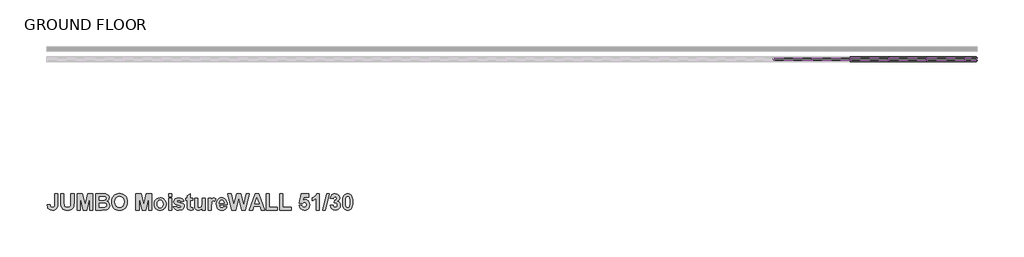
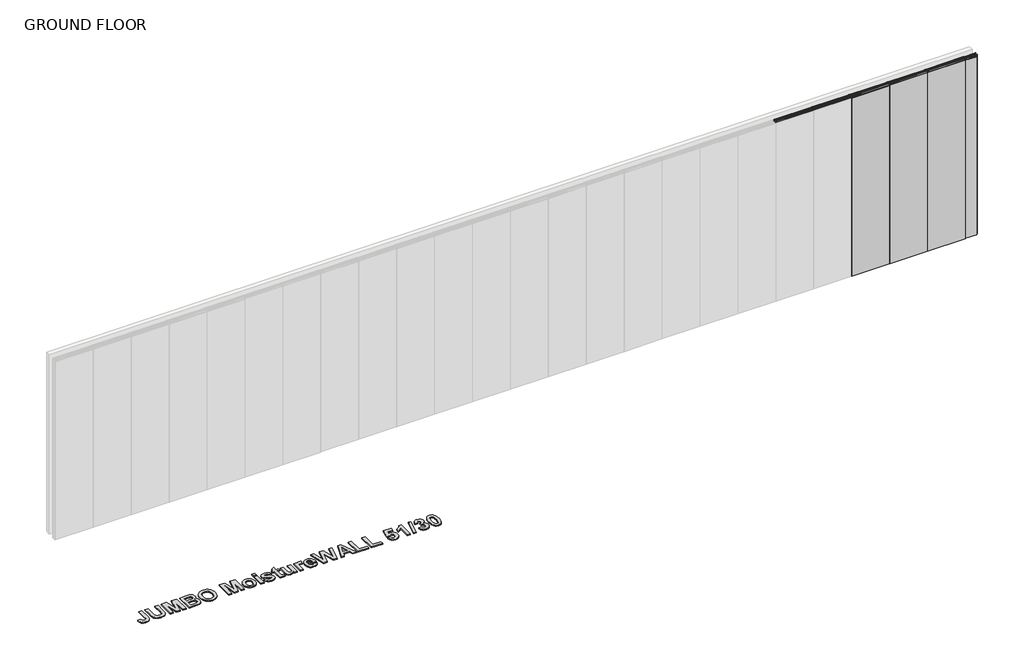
# One storey, part 2 of 2: 19 members, 4 plates, 1 proxy.
"""IFC4 building model written with IfcOpenShell, lengths in millimetres."""

from ifc_helpers import new_model, si_unit, origin, origin_with_axes, place, context, project, spatial, polyline, outline, extrude, transform, mapped, element, save
from components import rectangular_mullion_stud_mullion_51mm_94d3096a, rectangular_mullion_stud_mullion_51mm_2ef0a27f, rectangular_mullion_stud_mullion_51mm_d47c2d60, rectangular_mullion_stud_mullion_51mm_92998b61, rectangular_mullion_stud_mullion_51mm_77066ee0, rectangular_mullion_stud_mullion_51mm_8a3d9f1b, plate_2_layer_drywall_panels_2_layer_12mm_thick_drywall_a247d09f, plate_2_layer_drywall_panels_2_layer_12mm_thick_drywall_8d42099b

model = new_model("IFC4")

# Units and contexts
model_context = context("Model", 3, world=origin())
ifc_project = project(units=[si_unit("LENGTHUNIT", "METRE", prefix="MILLI")], contexts=[model_context])

# Site, building, storey
site = spatial("IfcSite", under=ifc_project)
building = spatial("IfcBuilding", under=site)
storey = spatial("IfcBuildingStorey", under=building, Name="GROUND FLOOR", Elevation=0.0)

# Proxy
placement = place(None, origin())
element("IfcBuildingElementProxy", 1, Name="600mm Arial", ObjectType="600mm Arial", at=placement, inside=storey, context=model_context, shape_type="SweptSolid", body=[
    extrude(outline(polyline([(61762.9500241, -9369.743976), (61811.5338051, -9369.743976), (61811.5338051, -9530.994051), (61810.1104521, -9558.9866592), (61805.8403932, -9579.7043522), (61795.149431, -9599.7261838), (61778.2589759, -9615.3830664), (61755.0741377, -9625.4888724), (61725.5000263, -9628.8574744), (61691.5293357, -9623.4566406), (61677.8651473, -9616.7055985), (61666.4150635, -9607.2541395), (61657.3530497, -9595.1892463), (61650.8530712, -9580.5979016), (61645.5392201, -9543.8358577), (61694.1230011, -9539.7872093), (61696.3529207, -9558.417318), (61701.1448757, -9570.6581534), (61712.5633294, -9580.9062947), (61728.726293, -9584.3223418), (61744.7073837, -9581.8710117), (61755.200658, -9574.5170215), (61761.0126826, -9559.4611102), (61762.9500241, -9533.9040171), (61762.9500241, -9369.743976)])), origin_with_axes(), (0.0, 0.0, 1.0), 15.0),
    extrude(outline(polyline([(61860.117586, -9369.743976), (61908.701367, -9369.743976), (61908.701367, -9507.3347619), (61910.7889513, -9549.8455702), (61916.8777389, -9563.8814119), (61927.9324469, -9574.8649522), (61943.9530752, -9581.9579944), (61964.9396238, -9584.3223418), (61985.9024499, -9582.0924222), (62000.9662687, -9575.4026633), (62010.6687913, -9565.4629151), (62015.547729, -9553.4830277), (62018.0148741, -9510.307988), (62018.0148741, -9369.743976), (62066.598655, -9369.743976), (62066.598655, -9503.539154), (62062.3602262, -9568.3807887), (62056.3346987, -9585.8326775), (62046.7349738, -9600.3587851), (62033.4266236, -9612.085632), (62016.2752205, -9621.1397383), (61994.2844173, -9626.9280404), (61966.457867, -9628.8574744), (61933.8630842, -9626.754075), (61910.2196101, -9620.4438769), (61893.0602995, -9610.7650768), (61879.9180071, -9598.5558714), (61870.682028, -9584.7493477), (61865.2416567, -9570.2785926), (61861.3986037, -9543.1716263), (61860.117586, -9505.6267383), (61860.117586, -9369.743976)])), origin_with_axes(), (0.0, 0.0, 1.0), 15.0),
    extrude(outline(polyline([(62115.182436, -9624.808826), (62115.182436, -9369.743976), (62198.432769, -9369.743976), (62238.6662126, -9543.7093374), (62278.8996562, -9369.743976), (62362.1499892, -9369.743976), (62362.1499892, -9624.808826), (62313.5662082, -9624.808826), (62311.541884, -9424.0211687), (62267.1332717, -9624.808826), (62210.2624136, -9624.808826), (62165.7905412, -9424.0211687), (62163.7662169, -9624.808826), (62115.182436, -9624.808826)])), origin_with_axes(), (0.0, 0.0, 1.0), 15.0),
    extrude(outline(polyline([(62410.7337701, -9369.743976), (62515.4292877, -9369.743976), (62561.7673339, -9372.2743812), (62589.0957107, -9382.8704532), (62600.1425112, -9392.2645828), (62609.1808025, -9404.3156378), (62615.20633, -9418.5096298), (62617.2148391, -9434.3325702), (62614.8188617, -9451.570956), (62607.6309292, -9467.3543588), (62596.3310883, -9480.5282812), (62581.5993851, -9489.9382257), (62600.2294939, -9499.0793147), (62613.9885724, -9512.9649136), (62622.4812451, -9530.6619353), (62625.312136, -9551.2372931), (62623.2799042, -9568.3254361), (62617.1832091, -9584.9233131), (62607.5676691, -9599.6312936), (62594.9789029, -9611.0497474), (62579.2666678, -9618.9493563), (62560.2807208, -9623.1008024), (62497.9062312, -9624.808826), (62410.7337701, -9624.808826), (62410.7337701, -9369.743976)]), holes=[polyline([(62459.3175511, -9414.2791085), (62459.3175511, -9470.9601863), (62496.3879881, -9470.9601863), (62537.5070735, -9470.1378046), (62550.4516779, -9467.1803934), (62560.3123509, -9461.3446463), (62566.5513814, -9452.9152338), (62568.6310582, -9442.1768265), (62566.836052, -9431.9049626), (62561.4510333, -9423.7364982), (62552.5392623, -9418.0193638), (62540.163999, -9415.1014902), (62491.8332586, -9414.2791085), (62459.3175511, -9414.2791085)]), polyline([(62459.3175511, -9515.4953188), (62459.3175511, -9580.2736934), (62510.6847778, -9580.2736934), (62548.7673769, -9578.7554503), (62560.0118653, -9575.3631257), (62568.9473589, -9569.1082802), (62574.783106, -9560.117434), (62576.728355, -9548.5171074), (62575.2259269, -9538.4587465), (62570.7186425, -9530.045149), (62553.3853665, -9518.974626), (62504.1689843, -9515.4953188), (62459.3175511, -9515.4953188)])]), origin_with_axes(), (0.0, 0.0, 1.0), 15.0),
    extrude(outline(polyline([(62657.7013233, -9498.8579042), (62660.5638442, -9463.0842999), (62669.1514071, -9433.5734486), (62679.2493055, -9415.1410278), (62692.4627655, -9398.6854861), (62707.9377752, -9385.2189856), (62724.8203227, -9375.7536884), (62750.0294851, -9368.2099178), (62778.844475, -9365.6953275), (62805.1369671, -9367.8758252), (62828.6618285, -9374.4173182), (62849.4190591, -9385.3198065), (62867.408659, -9400.58329), (62881.9387205, -9419.7293642), (62892.3173358, -9442.2796242), (62898.544505, -9468.23407), (62900.620228, -9497.5927016), (62898.56032, -9526.7516685), (62892.3805959, -9552.5499408), (62882.0810558, -9574.9875187), (62867.6616995, -9594.0644021), (62849.7907124, -9609.2863712), (62829.1362795, -9620.1592063), (62805.6984008, -9626.6829073), (62779.4770763, -9628.8574744), (62752.9789887, -9626.6927917), (62729.3434221, -9620.1987439), (62708.5703765, -9609.3753308), (62690.6598518, -9594.2225524), (62676.2404955, -9575.2741661), (62665.9409554, -9553.0639294), (62659.7612313, -9527.5918421), (62657.7013233, -9498.8579042)]), holes=[polyline([(62706.2851042, -9497.0866206), (62711.4487125, -9534.837104), (62717.9032227, -9549.8099864), (62726.9395371, -9562.1812958), (62750.3853234, -9578.7870803), (62779.4138162, -9584.3223418), (62808.3790489, -9578.8266179), (62831.6350547, -9562.3394461), (62840.5606639, -9549.9740673), (62846.936099, -9534.8608266), (62852.0364471, -9496.3907591), (62847.0705268, -9458.4979404), (62840.8631264, -9443.6792546), (62832.1727658, -9431.6123845), (62809.0511878, -9415.5759412), (62779.4138162, -9410.2304601), (62749.7131845, -9415.6392013), (62726.401826, -9431.865425), (62717.6007602, -9444.0548616), (62711.3142847, -9458.9882064), (62706.2851042, -9497.0866206)])]), origin_with_axes(), (0.0, 0.0, 1.0), 15.0),
    extrude(outline(polyline([(63038.2742741, -9624.808826), (63038.2742741, -9369.743976), (63121.524607, -9369.743976), (63161.7580506, -9543.7093374), (63201.9914942, -9369.743976), (63285.2418272, -9369.743976), (63285.2418272, -9624.808826), (63236.6580463, -9624.808826), (63234.6337221, -9424.0211687), (63190.2251098, -9624.808826), (63133.3542516, -9624.808826), (63088.8823792, -9424.0211687), (63086.858055, -9624.808826), (63038.2742741, -9624.808826)])), origin_with_axes(), (0.0, 0.0, 1.0), 15.0),
    extrude(outline(polyline([(63321.6796629, -9529.0329869), (63324.6766117, -9504.9387844), (63333.6674578, -9481.6195184), (63348.1461204, -9461.3999989), (63367.6065184, -9446.6050357), (63390.8388016, -9437.5430218), (63416.6331202, -9434.5223506), (63436.6252986, -9436.2343279), (63454.7236269, -9441.3702598), (63470.9281049, -9449.9301463), (63485.2387328, -9461.9139875), (63496.9319727, -9476.5152166), (63505.2842869, -9492.9272669), (63510.2956755, -9511.1501385), (63511.9661383, -9531.1838314), (63510.2778836, -9551.3776515), (63505.2131193, -9569.7646041), (63496.7718455, -9586.3446892), (63484.9540622, -9601.1179067), (63470.5781973, -9613.2539676), (63454.4626788, -9621.9225825), (63436.6075067, -9627.1237514), (63417.012681, -9628.8574744), (63392.238432, -9625.9712309), (63368.6503105, -9617.3125004), (63348.4070685, -9603.0710633), (63333.6674578, -9583.4367), (63324.6766117, -9558.6703585), (63321.6796629, -9529.0329869)]), holes=[polyline([(63370.2634439, -9531.6899125), (63373.6241384, -9557.6661039), (63383.7062218, -9576.7627561), (63398.7225955, -9588.505418), (63416.8861608, -9592.4196387), (63435.033911, -9588.505418), (63450.0028396, -9576.7627561), (63460.0374779, -9557.5712137), (63463.3823574, -9531.3103517), (63460.0374779, -9505.6188308), (63450.0028396, -9486.6170688), (63435.033911, -9474.8744069), (63416.8861608, -9470.9601863), (63398.7225955, -9474.8744069), (63383.7062218, -9486.6170688), (63373.6241384, -9505.713721), (63370.2634439, -9531.6899125)])]), origin_with_axes(), (0.0, 0.0, 1.0), 15.0),
    extrude(outline(polyline([(63548.403974, -9414.2791085), (63548.403974, -9369.743976), (63596.987755, -9369.743976), (63596.987755, -9414.2791085), (63548.403974, -9414.2791085)])), origin_with_axes(), (0.0, 0.0, 1.0), 15.0),
    extrude(outline(polyline([(63548.403974, -9624.808826), (63548.403974, -9438.570999), (63596.987755, -9438.570999), (63596.987755, -9624.808826), (63548.403974, -9624.808826)])), origin_with_axes(), (0.0, 0.0, 1.0), 15.0),
    extrude(outline(polyline([(63625.3282939, -9572.1763966), (63673.9120748, -9564.0790998), (63678.5379719, -9576.3199352), (63686.3426906, -9585.2079837), (63697.5950865, -9590.6167249), (63712.5640151, -9592.4196387), (63728.8060539, -9590.6958001), (63740.4617331, -9585.5242843), (63745.206243, -9579.8941326), (63746.7877462, -9572.6192175), (63743.4349593, -9563.5097586), (63727.5566663, -9557.1204853), (63680.6334638, -9544.6898695), (63654.744255, -9533.3346759), (63638.7552568, -9515.3529835), (63633.4255907, -9491.519729), (63637.9961352, -9469.3312379), (63651.7077687, -9450.9699847), (63675.0349422, -9438.6342591), (63708.4521066, -9434.5223506), (63740.3193978, -9437.8435075), (63762.7925595, -9447.8069782), (63777.8010257, -9464.2862424), (63787.2742304, -9487.1547799), (63738.6904494, -9495.2520767), (63735.116252, -9484.8616002), (63729.32795, -9477.2229393), (63720.9776126, -9472.5258745), (63709.7173092, -9470.9601863), (63695.8791555, -9472.288649), (63686.6273612, -9476.2740373), (63682.0093716, -9486.1426178), (63686.6273612, -9494.9357761), (63729.6126206, -9508.5367044), (63760.8394029, -9518.3578398), (63780.9482172, -9530.2349294), (63791.7656997, -9545.907627), (63795.3715272, -9566.7360253), (63790.1446588, -9590.434852), (63774.4640538, -9610.5436663), (63762.7549988, -9618.5559573), (63748.5353074, -9624.2790223), (63712.5640151, -9628.8574744), (63679.2496484, -9625.0460514), (63653.7004628, -9613.6117827), (63635.7741231, -9595.6300903), (63625.3282939, -9572.1763966)])), origin_with_axes(), (0.0, 0.0, 1.0), 15.0),
    extrude(outline(polyline([(63928.9769248, -9438.570999), (63928.9769248, -9475.0088347), (63892.5390891, -9475.0088347), (63892.5390891, -9554.9063807), (63893.6461414, -9583.1520294), (63898.6753218, -9589.7943432), (63908.2276017, -9592.4196387), (63931.001249, -9587.7383889), (63933.0255732, -9622.2784207), (63914.2847593, -9627.2127109), (63893.2349505, -9628.8574744), (63868.6900195, -9624.3027449), (63852.6535762, -9612.5363605), (63845.5368114, -9592.9889798), (63843.9553081, -9557.6265664), (63843.9553081, -9475.0088347), (63819.6634177, -9475.0088347), (63819.6634177, -9438.570999), (63843.9553081, -9438.570999), (63843.9553081, -9402.1331633), (63892.5390891, -9373.7926244), (63892.5390891, -9438.570999), (63928.9769248, -9438.570999)])), origin_with_axes(), (0.0, 0.0, 1.0), 15.0),
    extrude(outline(polyline([(64074.7282677, -9624.808826), (64074.7282677, -9597.4804492), (64063.5391319, -9610.5357588), (64049.3293249, -9620.4755069), (64033.1584538, -9626.7619825), (64016.0861258, -9628.8574744), (63999.2114857, -9626.8015201), (63984.1397594, -9620.6336573), (63971.9305541, -9610.7413542), (63963.6434768, -9597.5120792), (63958.898967, -9579.7597048), (63957.3174637, -9556.2981036), (63957.3174637, -9438.570999), (64005.9012446, -9438.570999), (64005.9012446, -9524.6680379), (64008.5265401, -9573.0936685), (64018.1420801, -9587.2006778), (64035.8865469, -9592.4196387), (64047.5185036, -9590.679985), (64057.8694426, -9585.4610242), (64066.0458146, -9577.6563055), (64071.1540702, -9568.1593782), (64074.7282677, -9517.5829032), (64074.7282677, -9438.570999), (64123.3120486, -9438.570999), (64123.3120486, -9624.808826), (64074.7282677, -9624.808826)])), origin_with_axes(), (0.0, 0.0, 1.0), 15.0),
    extrude(outline(polyline([(64220.4796105, -9624.808826), (64171.8958296, -9624.808826), (64171.8958296, -9438.570999), (64220.4796105, -9438.570999), (64220.4796105, -9464.5076529), (64239.9004709, -9440.3106526), (64259.5111116, -9434.5223506), (64274.6777281, -9437.0843859), (64289.3066335, -9444.7704919), (64275.1363641, -9491.0136479), (64263.4332398, -9485.0830106), (64252.6157573, -9483.1061315), (64235.5038917, -9488.641393), (64229.2569537, -9496.3986666), (64224.4966289, -9508.5999645), (64220.4796105, -9569.0766501), (64220.4796105, -9624.808826)])), origin_with_axes(), (0.0, 0.0, 1.0), 15.0),
    extrude(outline(polyline([(64414.8147343, -9568.1277482), (64463.3985153, -9576.225045), (64451.5688707, -9598.8958946), (64434.4253751, -9615.4146964), (64412.1419938, -9625.4967799), (64384.8926921, -9628.8574744), (64362.8900277, -9626.8766415), (64343.9475721, -9620.9341429), (64328.0653253, -9611.0299786), (64315.2432874, -9597.1641485), (64301.8637696, -9568.4598639), (64297.4039303, -9533.0816354), (64298.8826359, -9511.241075), (64303.3187526, -9491.8992898), (64310.7122805, -9475.0562798), (64321.0632195, -9460.712045), (64333.6757082, -9449.2540537), (64347.8538852, -9441.0697742), (64363.5977504, -9436.1592065), (64380.9073039, -9434.5223506), (64400.1423376, -9436.2026978), (64417.2344343, -9441.2437395), (64432.1835941, -9449.6454757), (64444.989817, -9461.4079064), (64455.194467, -9476.6417368), (64462.3389081, -9495.4576722), (64466.4231403, -9517.8557125), (64467.4471637, -9543.8358577), (64345.9877113, -9543.8358577), (64349.1032728, -9564.3005102), (64357.4377951, -9579.6410921), (64369.7260756, -9589.225002), (64384.7029117, -9592.4196387), (64394.9036079, -9590.9804707), (64403.3646505, -9586.6629667), (64410.0227794, -9579.1508261), (64414.8147343, -9568.1277482)]), holes=[polyline([(64418.8633827, -9515.4953188), (64415.9059716, -9496.2879614), (64408.0459002, -9482.3153799), (64396.6274465, -9473.7989847), (64382.9948882, -9470.9601863), (64368.6032083, -9473.9492275), (64356.931714, -9482.9163511), (64349.2772381, -9497.0708055), (64346.810093, -9515.4953188), (64418.8633827, -9515.4953188)])]), origin_with_axes(), (0.0, 0.0, 1.0), 15.0),
    extrude(outline(polyline([(65054.5011835, -9624.808826), (65003.4502574, -9624.808826), (64983.4600559, -9568.1277482), (64887.1148757, -9568.1277482), (64867.3777147, -9624.808826), (64815.6309272, -9624.808826), (64908.7498406, -9369.743976), (64960.4966282, -9369.743976), (65054.5011835, -9624.808826)]), holes=[polyline([(64967.8980635, -9523.5926156), (64935.0660553, -9430.4737021), (64902.676868, -9523.5926156), (64967.8980635, -9523.5926156)])]), origin_with_axes(), (0.0, 0.0, 1.0), 15.0),
    extrude(outline(polyline([(64543.8021423, -9624.808826), (64479.5931089, -9369.743976), (64529.4420925, -9369.743976), (64570.6876982, -9544.9745401), (64615.0330503, -9369.743976), (64680.3807661, -9369.743976), (64724.5363379, -9547.8845061), (64765.7819436, -9369.743976), (64815.6309272, -9369.743976), (64752.3707957, -9624.808826), (64694.8673362, -9624.808826), (64647.612018, -9434.1427898), (64599.4077979, -9624.808826), (64543.8021423, -9624.808826)])), origin_with_axes(), (0.0, 0.0, 1.0), 15.0),
    extrude(outline(polyline([(65078.793074, -9624.808826), (65078.793074, -9369.743976), (65127.3768549, -9369.743976), (65127.3768549, -9580.2736934), (65256.9336041, -9580.2736934), (65256.9336041, -9624.808826), (65078.793074, -9624.808826)])), origin_with_axes(), (0.0, 0.0, 1.0), 15.0),
    extrude(outline(polyline([(65293.3714398, -9624.808826), (65293.3714398, -9369.743976), (65341.9552208, -9369.743976), (65341.9552208, -9580.2736934), (65471.51197, -9580.2736934), (65471.51197, -9624.808826), (65293.3714398, -9624.808826)])), origin_with_axes(), (0.0, 0.0, 1.0), 15.0),
    extrude(outline(polyline([(65597.0200708, -9553.0085768), (65641.5552033, -9547.8845061), (65645.6987419, -9562.9562324), (65653.9541891, -9574.5170215), (65665.0563421, -9581.8710117), (65677.7399985, -9584.3223418), (65691.9339905, -9581.7207689), (65703.7715426, -9573.9160502), (65711.7660417, -9560.8765556), (65714.4308747, -9542.5706551), (65711.9558221, -9525.4113444), (65704.5306642, -9513.1546939), (65693.135933, -9505.8007037), (65678.7521606, -9503.3493736), (65659.9322715, -9508.4101841), (65643.1999667, -9523.5926156), (65601.0687192, -9517.3298626), (65629.4092581, -9373.7926244), (65750.8687104, -9373.7926244), (65750.8687104, -9422.3764053), (65668.6937997, -9422.3764053), (65658.8884793, -9468.7460817), (65674.3713965, -9461.2972012), (65690.2022444, -9458.814241), (65718.3213728, -9464.5630055), (65741.8225116, -9481.8092988), (65757.7166197, -9508.2283112), (65763.0146557, -9541.4952328), (65758.6022615, -9570.4209279), (65745.365079, -9596.0887263), (65732.1476653, -9610.4250536), (65716.5975342, -9620.6652873), (65698.7146858, -9626.8094276), (65678.4991201, -9628.8574744), (65647.4937481, -9623.7175887), (65622.7985743, -9608.2979316), (65605.5839111, -9584.1958216), (65597.0200708, -9553.0085768)])), origin_with_axes(), (0.0, 0.0, 1.0), 15.0),
    extrude(outline(polyline([(65912.8146469, -9624.808826), (65864.230866, -9624.808826), (65864.230866, -9442.4931271), (65836.1749977, -9466.3738267), (65803.5011398, -9483.1061315), (65803.5011398, -9434.5223506), (65822.9694453, -9425.4366142), (65844.0508841, -9410.7049111), (65862.5070274, -9391.6873341), (65874.0994465, -9369.743976), (65912.8146469, -9369.743976), (65912.8146469, -9624.808826)])), origin_with_axes(), (0.0, 0.0, 1.0), 15.0),
    extrude(outline(polyline([(65968.6100829, -9624.808826), (66029.3398091, -9369.743976), (66066.6632866, -9369.743976), (66005.9335604, -9624.808826), (65968.6100829, -9624.808826)])), origin_with_axes(), (0.0, 0.0, 1.0), 15.0),
    extrude(outline(polyline([(66082.8578803, -9553.5146578), (66131.4416612, -9547.8845061), (66135.189824, -9563.5097586), (66142.385664, -9574.9598424), (66152.2384294, -9581.981717), (66163.9573688, -9584.3223418), (66176.5303199, -9581.6416938), (66186.9207965, -9573.5997495), (66193.895226, -9561.0188909), (66196.2200358, -9544.7214995), (66194.0929139, -9529.3018425), (66187.7115481, -9517.4563829), (66178.262066, -9509.9126122), (66166.930595, -9507.398022), (66147.6362549, -9511.0038495), (66151.8746837, -9470.9601863), (66165.7049299, -9469.2205327), (66175.8186434, -9462.9894097), (66182.0102288, -9453.1208292), (66184.0740906, -9440.4688029), (66182.5321249, -9429.7224881), (66177.9062278, -9421.3958733), (66170.7182953, -9416.0582997), (66161.4902237, -9414.2791085), (66152.1040017, -9416.3429703), (66144.1885777, -9422.5345557), (66138.4239982, -9432.6957143), (66135.4903096, -9446.6682958), (66086.9065287, -9439.3933807), (66092.4655127, -9417.655618), (66100.2860465, -9400.7730704), (66111.0086388, -9387.8600961), (66125.2737984, -9378.0310532), (66142.2670512, -9371.8157453), (66161.173923, -9369.743976), (66191.8234567, -9375.4848329), (66204.6099108, -9382.6609041), (66215.7041563, -9392.7074037), (66228.4194427, -9412.7292353), (66232.6578715, -9435.218212), (66230.3844606, -9451.1637189), (66223.5642276, -9465.4091097), (66212.1971728, -9477.9543846), (66196.283296, -9488.7995433), (66216.1469772, -9496.3512215), (66231.5824493, -9509.6437567), (66241.4984749, -9527.5068363), (66244.8038168, -9548.770148), (66238.9443471, -9579.5382944), (66221.3659381, -9605.4195957), (66208.9293916, -9615.6736676), (66195.0576309, -9622.9980047), (66163.0084668, -9628.8574744), (66132.7464014, -9623.646421), (66108.1303028, -9608.0132611), (66090.9156395, -9583.9665036), (66082.8578803, -9553.5146578)])), origin_with_axes(), (0.0, 0.0, 1.0), 15.0),
    extrude(outline(polyline([(66358.1659723, -9369.743976), (66375.2976067, -9371.3887394), (66390.4444544, -9376.3230296), (66403.6065155, -9384.5468467), (66414.78379, -9396.0601906), (66425.4391684, -9414.1881721), (66433.0501529, -9437.4481316), (66437.6167437, -9465.8400694), (66439.1389406, -9499.3639853), (66437.6088361, -9532.8562711), (66433.0185229, -9561.2798389), (66425.3680007, -9584.6346887), (66414.6572697, -9602.9208205), (66403.5353478, -9614.2681065), (66390.4128243, -9622.3733109), (66375.2896992, -9627.2364335), (66358.1659723, -9628.8574744), (66340.8583957, -9627.0782832), (66325.3102416, -9621.7407096), (66311.5215098, -9612.8447536), (66299.4922004, -9600.3904152), (66289.736302, -9583.3694861), (66282.7678032, -9560.7737579), (66278.5867038, -9532.6032306), (66277.1930041, -9498.8579042), (66278.7231085, -9465.5316762), (66283.3134218, -9437.2267212), (66290.9639439, -9413.9430391), (66301.6746749, -9395.6806299), (66312.7965968, -9384.3333438), (66325.9191203, -9376.2281394), (66341.0422455, -9371.3650168), (66358.1659723, -9369.743976)]), holes=[polyline([(66358.1659723, -9414.2791085), (66341.9713787, -9419.6245896), (66335.6453655, -9427.0971926), (66330.9641158, -9438.8240395), (66327.0736177, -9462.9735947), (66325.776785, -9499.3639853), (66326.9312824, -9535.2720174), (66330.3947746, -9557.8479768), (66335.621643, -9571.1009744), (66342.0662689, -9579.0401208), (66358.1659723, -9584.3223418), (66374.360566, -9578.9768607), (66380.6865791, -9571.5042577), (66385.3678288, -9559.7774108), (66389.2583269, -9535.7543759), (66390.5551596, -9499.3639853), (66389.4006622, -9463.4954908), (66385.93717, -9440.9116238), (66380.7103017, -9427.6190887), (66374.2656758, -9419.6245896), (66358.1659723, -9414.2791085)])]), origin_with_axes(), (0.0, 0.0, 1.0), 15.0),
])

# Members
rectangular_mullion_stud_mullion_51mm_shape = rectangular_mullion_stud_mullion_51mm_94d3096a(model_context)
element("IfcMember", 2, ObjectType="Rectangular Mullion : Stud Mullion - 51mm", at=placement, inside=storey, context=model_context, shape_type="MappedRepresentation", body=[
    mapped(rectangular_mullion_stud_mullion_51mm_shape, transform((76216.5186508, -7259.4010443, 3000.0), x_axis=(0.0, 0.0, 1.0), y_axis=(0.0, -1.0, 0.0), z_axis=(1.0, 0.0, 0.0))),
])
rectangular_mullion_stud_mullion_51mm_2_shape = rectangular_mullion_stud_mullion_51mm_2ef0a27f(model_context)
element("IfcMember", 3, ObjectType="Rectangular Mullion : Stud Mullion - 51mm", at=placement, inside=storey, context=model_context, shape_type="MappedRepresentation", body=[
    mapped(rectangular_mullion_stud_mullion_51mm_2_shape, transform((73054.5186511, -7259.4010443, 0.0), x_axis=(0.0, 0.0, -1.0), y_axis=(0.0, -1.0, 0.0), z_axis=(-1.0, 0.0, 0.0))),
])
element("IfcMember", 4, ObjectType="Rectangular Mullion : Stud Mullion - 51mm", at=placement, inside=storey, context=model_context, shape_type="MappedRepresentation", body=[
    mapped(rectangular_mullion_stud_mullion_51mm_2_shape, transform((73654.5186511, -7259.4010443, 0.0), x_axis=(0.0, 0.0, -1.0), y_axis=(0.0, -1.0, 0.0), z_axis=(-1.0, 0.0, 0.0))),
])
element("IfcMember", 5, ObjectType="Rectangular Mullion : Stud Mullion - 51mm", at=placement, inside=storey, context=model_context, shape_type="MappedRepresentation", body=[
    mapped(rectangular_mullion_stud_mullion_51mm_2_shape, transform((74254.5186511, -7259.4010443, 0.0), x_axis=(0.0, 0.0, -1.0), y_axis=(0.0, -1.0, 0.0), z_axis=(-1.0, 0.0, 0.0))),
])
element("IfcMember", 6, ObjectType="Rectangular Mullion : Stud Mullion - 51mm", at=placement, inside=storey, context=model_context, shape_type="MappedRepresentation", body=[
    mapped(rectangular_mullion_stud_mullion_51mm_2_shape, transform((74854.5186511, -7259.4010443, 0.0), x_axis=(0.0, 0.0, -1.0), y_axis=(0.0, -1.0, 0.0), z_axis=(-1.0, 0.0, 0.0))),
])
element("IfcMember", 7, ObjectType="Rectangular Mullion : Stud Mullion - 51mm", at=placement, inside=storey, context=model_context, shape_type="MappedRepresentation", body=[
    mapped(rectangular_mullion_stud_mullion_51mm_2_shape, transform((75454.5186511, -7259.4010443, 0.0), x_axis=(0.0, 0.0, -1.0), y_axis=(0.0, -1.0, 0.0), z_axis=(-1.0, 0.0, 0.0))),
])
rectangular_mullion_stud_mullion_51mm_3_shape = rectangular_mullion_stud_mullion_51mm_d47c2d60(model_context)
element("IfcMember", 8, ObjectType="Rectangular Mullion : Stud Mullion - 51mm", at=placement, inside=storey, context=model_context, shape_type="MappedRepresentation", body=[
    mapped(rectangular_mullion_stud_mullion_51mm_3_shape, transform((76235.5186508, -7259.4010443, 0.0), x_axis=(1.0, 0.0, 0.0), y_axis=(0.0, -1.0, 0.0), z_axis=(0.0, 0.0, -1.0))),
])
rectangular_mullion_stud_mullion_51mm_4_shape = rectangular_mullion_stud_mullion_51mm_92998b61(model_context)
element("IfcMember", 9, ObjectType="Rectangular Mullion : Stud Mullion - 51mm", at=placement, inside=storey, context=model_context, shape_type="MappedRepresentation", body=[
    mapped(rectangular_mullion_stud_mullion_51mm_4_shape, transform((73635.5186511, -7259.4010443, 3000.0), x_axis=(0.0, 0.0, 1.0), y_axis=(0.0, -1.0, 0.0), z_axis=(1.0, 0.0, 0.0))),
])
element("IfcMember", 10, ObjectType="Rectangular Mullion : Stud Mullion - 51mm", at=placement, inside=storey, context=model_context, shape_type="MappedRepresentation", body=[
    mapped(rectangular_mullion_stud_mullion_51mm_4_shape, transform((74235.5186511, -7259.4010443, 3000.0), x_axis=(0.0, 0.0, 1.0), y_axis=(0.0, -1.0, 0.0), z_axis=(1.0, 0.0, 0.0))),
])
element("IfcMember", 11, ObjectType="Rectangular Mullion : Stud Mullion - 51mm", at=placement, inside=storey, context=model_context, shape_type="MappedRepresentation", body=[
    mapped(rectangular_mullion_stud_mullion_51mm_4_shape, transform((74835.5186511, -7259.4010443, 3000.0), x_axis=(0.0, 0.0, 1.0), y_axis=(0.0, -1.0, 0.0), z_axis=(1.0, 0.0, 0.0))),
])
element("IfcMember", 12, ObjectType="Rectangular Mullion : Stud Mullion - 51mm", at=placement, inside=storey, context=model_context, shape_type="MappedRepresentation", body=[
    mapped(rectangular_mullion_stud_mullion_51mm_4_shape, transform((75435.5186511, -7259.4010443, 3000.0), x_axis=(0.0, 0.0, 1.0), y_axis=(0.0, -1.0, 0.0), z_axis=(1.0, 0.0, 0.0))),
])
element("IfcMember", 13, ObjectType="Rectangular Mullion : Stud Mullion - 51mm", at=placement, inside=storey, context=model_context, shape_type="MappedRepresentation", body=[
    mapped(rectangular_mullion_stud_mullion_51mm_4_shape, transform((76035.5186511, -7259.4010443, 3000.0), x_axis=(0.0, 0.0, 1.0), y_axis=(0.0, -1.0, 0.0), z_axis=(1.0, 0.0, 0.0))),
])
rectangular_mullion_stud_mullion_51mm_5_shape = rectangular_mullion_stud_mullion_51mm_77066ee0(model_context)
element("IfcMember", 14, ObjectType="Rectangular Mullion : Stud Mullion - 51mm", at=placement, inside=storey, context=model_context, shape_type="MappedRepresentation", body=[
    mapped(rectangular_mullion_stud_mullion_51mm_5_shape, transform((76054.5186511, -7259.4010443, 0.0), x_axis=(0.0, 0.0, -1.0), y_axis=(0.0, -1.0, 0.0), z_axis=(-1.0, 0.0, 0.0))),
])
rectangular_mullion_stud_mullion_51mm_6_shape = rectangular_mullion_stud_mullion_51mm_8a3d9f1b(model_context)
element("IfcMember", 15, ObjectType="Rectangular Mullion : Stud Mullion - 51mm", at=placement, inside=storey, context=model_context, shape_type="MappedRepresentation", body=[
    mapped(rectangular_mullion_stud_mullion_51mm_6_shape, transform((73045.0186511, -7259.4010443, 0.0), x_axis=(1.0, 0.0, 0.0), y_axis=(0.0, -1.0, 0.0), z_axis=(0.0, 0.0, -1.0))),
])
element("IfcMember", 16, ObjectType="Rectangular Mullion : Stud Mullion - 51mm", at=placement, inside=storey, context=model_context, shape_type="MappedRepresentation", body=[
    mapped(rectangular_mullion_stud_mullion_51mm_6_shape, transform((73645.0186511, -7259.4010443, 0.0), x_axis=(1.0, 0.0, 0.0), y_axis=(0.0, -1.0, 0.0), z_axis=(0.0, 0.0, -1.0))),
])
element("IfcMember", 17, ObjectType="Rectangular Mullion : Stud Mullion - 51mm", at=placement, inside=storey, context=model_context, shape_type="MappedRepresentation", body=[
    mapped(rectangular_mullion_stud_mullion_51mm_6_shape, transform((74245.0186511, -7259.4010443, 0.0), x_axis=(1.0, 0.0, 0.0), y_axis=(0.0, -1.0, 0.0), z_axis=(0.0, 0.0, -1.0))),
])
element("IfcMember", 18, ObjectType="Rectangular Mullion : Stud Mullion - 51mm", at=placement, inside=storey, context=model_context, shape_type="MappedRepresentation", body=[
    mapped(rectangular_mullion_stud_mullion_51mm_6_shape, transform((74845.0186511, -7259.4010443, 0.0), x_axis=(1.0, 0.0, 0.0), y_axis=(0.0, -1.0, 0.0), z_axis=(0.0, 0.0, -1.0))),
])
element("IfcMember", 19, ObjectType="Rectangular Mullion : Stud Mullion - 51mm", at=placement, inside=storey, context=model_context, shape_type="MappedRepresentation", body=[
    mapped(rectangular_mullion_stud_mullion_51mm_6_shape, transform((75445.0186511, -7259.4010443, 0.0), x_axis=(1.0, 0.0, 0.0), y_axis=(0.0, -1.0, 0.0), z_axis=(0.0, 0.0, -1.0))),
])
element("IfcMember", 20, ObjectType="Rectangular Mullion : Stud Mullion - 51mm", at=placement, inside=storey, context=model_context, shape_type="MappedRepresentation", body=[
    mapped(rectangular_mullion_stud_mullion_51mm_6_shape, transform((76045.0186511, -7259.4010443, 0.0), x_axis=(1.0, 0.0, 0.0), y_axis=(0.0, -1.0, 0.0), z_axis=(0.0, 0.0, -1.0))),
])

# Plates
plate_2_layer_drywall_panels_2_layer_12mm_thick_drywall_shape = plate_2_layer_drywall_panels_2_layer_12mm_thick_drywall_a247d09f(model_context)
element("IfcPlate", 21, ObjectType="2 Layer - Drywall Panels : 2 Layer - 12mm thick Drywall Panels 76mm", at=placement, inside=storey, context=model_context, shape_type="MappedRepresentation", body=[
    mapped(plate_2_layer_drywall_panels_2_layer_12mm_thick_drywall_shape, transform((74536.3186511, -7259.4010443, 1.6), x_axis=(1.0, 0.0, 0.0), y_axis=(0.0, 1.0, 0.0), z_axis=(0.0, 0.0, 1.0))),
])
element("IfcPlate", 22, ObjectType="2 Layer - Drywall Panels : 2 Layer - 12mm thick Drywall Panels 76mm", at=placement, inside=storey, context=model_context, shape_type="MappedRepresentation", body=[
    mapped(plate_2_layer_drywall_panels_2_layer_12mm_thick_drywall_shape, transform((75136.3186511, -7259.4010443, 1.6), x_axis=(1.0, 0.0, 0.0), y_axis=(0.0, 1.0, 0.0), z_axis=(0.0, 0.0, 1.0))),
])
element("IfcPlate", 23, ObjectType="2 Layer - Drywall Panels : 2 Layer - 12mm thick Drywall Panels 76mm", at=placement, inside=storey, context=model_context, shape_type="MappedRepresentation", body=[
    mapped(plate_2_layer_drywall_panels_2_layer_12mm_thick_drywall_shape, transform((75736.3186511, -7259.4010443, 1.6), x_axis=(1.0, 0.0, 0.0), y_axis=(0.0, 1.0, 0.0), z_axis=(0.0, 0.0, 1.0))),
])
plate_2_layer_drywall_panels_2_layer_12mm_thick_drywall_2_shape = plate_2_layer_drywall_panels_2_layer_12mm_thick_drywall_8d42099b(model_context)
element("IfcPlate", 24, ObjectType="2 Layer - Drywall Panels : 2 Layer - 12mm thick Drywall Panels 76mm", at=placement, inside=storey, context=model_context, shape_type="MappedRepresentation", body=[
    mapped(plate_2_layer_drywall_panels_2_layer_12mm_thick_drywall_2_shape, transform((76126.818651, -7259.4010443, 1.6), x_axis=(1.0, 0.0, 0.0), y_axis=(0.0, 1.0, 0.0), z_axis=(0.0, 0.0, 1.0))),
])

save(model, "model.ifc")
